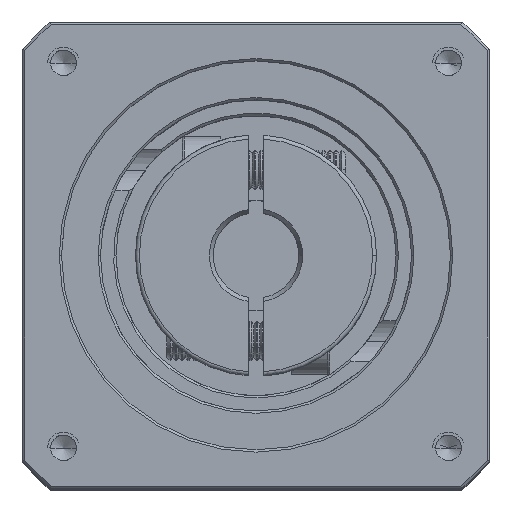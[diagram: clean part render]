
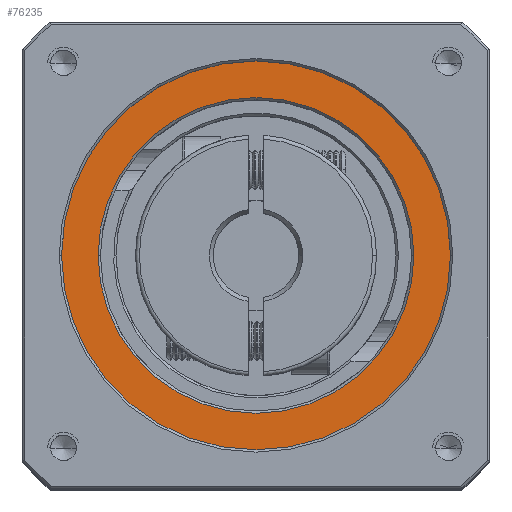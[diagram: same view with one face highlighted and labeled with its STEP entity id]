
A CAD part, top view. The second image highlights one B-rep face of the part: STEP entity #76235.
In plain terms, the highlighted planar face has unit normal (0, 0, 1).
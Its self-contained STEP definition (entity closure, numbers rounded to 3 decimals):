
#3365 = EDGE_LOOP ( 'NONE', ( #44256, #42054 ) ) ;
#5707 = AXIS2_PLACEMENT_3D ( 'NONE', #27039, #78976, #34523 ) ;
#6577 = FACE_OUTER_BOUND ( 'NONE', #26948, .T. ) ;
#6968 = DIRECTION ( 'NONE',  ( 0., 0., 1. ) ) ;
#8873 = FACE_BOUND ( 'NONE', #3365, .T. ) ;
#9721 = CIRCLE ( 'NONE', #40808, 25. ) ;
#12574 = EDGE_CURVE ( 'NONE', #48190, #83080, #74449, .T. ) ;
#14365 = ORIENTED_EDGE ( 'NONE', *, *, #12574, .T. ) ;
#17903 = CIRCLE ( 'NONE', #20928, 20.3 ) ;
#20928 = AXIS2_PLACEMENT_3D ( 'NONE', #35621, #87511, #43049 ) ;
#24274 = AXIS2_PLACEMENT_3D ( 'NONE', #41566, #93447, #48998 ) ;
#26948 = EDGE_LOOP ( 'NONE', ( #14365, #75821 ) ) ;
#27039 = CARTESIAN_POINT ( 'NONE',  ( -66.425, 14.93, 33.07 ) ) ;
#28307 = CARTESIAN_POINT ( 'NONE',  ( -91.425, 14.93, 33.07 ) ) ;
#34523 = DIRECTION ( 'NONE',  ( 1., 0., 0. ) ) ;
#35621 = CARTESIAN_POINT ( 'NONE',  ( -66.425, 14.93, 33.07 ) ) ;
#37972 = CARTESIAN_POINT ( 'NONE',  ( -66.425, 14.93, 33.07 ) ) ;
#40808 = AXIS2_PLACEMENT_3D ( 'NONE', #37972, #89862, #45406 ) ;
#40925 = PLANE ( 'NONE',  #24274 ) ;
#41566 = CARTESIAN_POINT ( 'NONE',  ( -66.425, 14.93, 33.07 ) ) ;
#42054 = ORIENTED_EDGE ( 'NONE', *, *, #51049, .T. ) ;
#43049 = DIRECTION ( 'NONE',  ( 1., 0., 0. ) ) ;
#44256 = ORIENTED_EDGE ( 'NONE', *, *, #48534, .T. ) ;
#45406 = DIRECTION ( 'NONE',  ( 1., 0., 0. ) ) ;
#48190 = VERTEX_POINT ( 'NONE', #73300 ) ;
#48534 = EDGE_CURVE ( 'NONE', #70112, #50537, #17903, .T. ) ;
#48998 = DIRECTION ( 'NONE',  ( 1., 0., 0. ) ) ;
#50537 = VERTEX_POINT ( 'NONE', #90723 ) ;
#51049 = EDGE_CURVE ( 'NONE', #50537, #70112, #76265, .T. ) ;
#51417 = CARTESIAN_POINT ( 'NONE',  ( -66.425, 14.93, 33.07 ) ) ;
#58864 = DIRECTION ( 'NONE',  ( 1., 0., 0. ) ) ;
#64566 = AXIS2_PLACEMENT_3D ( 'NONE', #51417, #6968, #58864 ) ;
#70112 = VERTEX_POINT ( 'NONE', #77356 ) ;
#73300 = CARTESIAN_POINT ( 'NONE',  ( -41.425, 14.93, 33.07 ) ) ;
#74449 = CIRCLE ( 'NONE', #64566, 25. ) ;
#75821 = ORIENTED_EDGE ( 'NONE', *, *, #84810, .T. ) ;
#76235 = ADVANCED_FACE ( 'NONE', ( #8873, #6577 ), #40925, .T. ) ;
#76265 = CIRCLE ( 'NONE', #5707, 20.3 ) ;
#77356 = CARTESIAN_POINT ( 'NONE',  ( -46.125, 14.93, 33.07 ) ) ;
#78976 = DIRECTION ( 'NONE',  ( 0., 0., -1. ) ) ;
#83080 = VERTEX_POINT ( 'NONE', #28307 ) ;
#84810 = EDGE_CURVE ( 'NONE', #83080, #48190, #9721, .T. ) ;
#87511 = DIRECTION ( 'NONE',  ( 0., 0., -1. ) ) ;
#89862 = DIRECTION ( 'NONE',  ( 0., 0., 1. ) ) ;
#90723 = CARTESIAN_POINT ( 'NONE',  ( -86.725, 14.93, 33.07 ) ) ;
#93447 = DIRECTION ( 'NONE',  ( 0., 0., 1. ) ) ;
